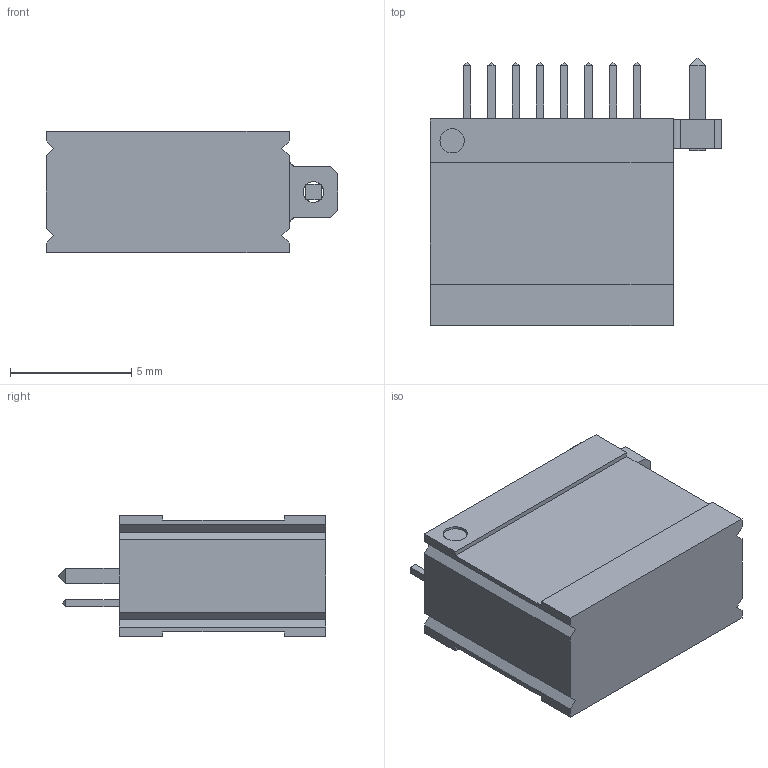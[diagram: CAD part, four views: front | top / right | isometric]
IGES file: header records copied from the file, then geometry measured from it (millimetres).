
Start section: SolidWorks IGES file using analytic representation for surfaces
Global section: file name: D:\Dokumenti\dokumentacija-mehanskih-delov-RLSizdelkov-\RLM-ROLIN-ohišje-odlitek-zamak-\RLM-napaka\RLM-3D.IGS; native system: SolidWorks 2010; preprocessor: SolidWorks 2010; author: cerar; date: 110407.100050; units: millimetre
Bounding box: 12 x 11 x 5 mm (x, y, z)
Surface area: 416.8 mm2 (no closed solid volume)
Topology: 0 solids, 0 shells, 133 faces, 808 edges, 808 vertices
Faces by surface type: bspline 118, revolution 15
